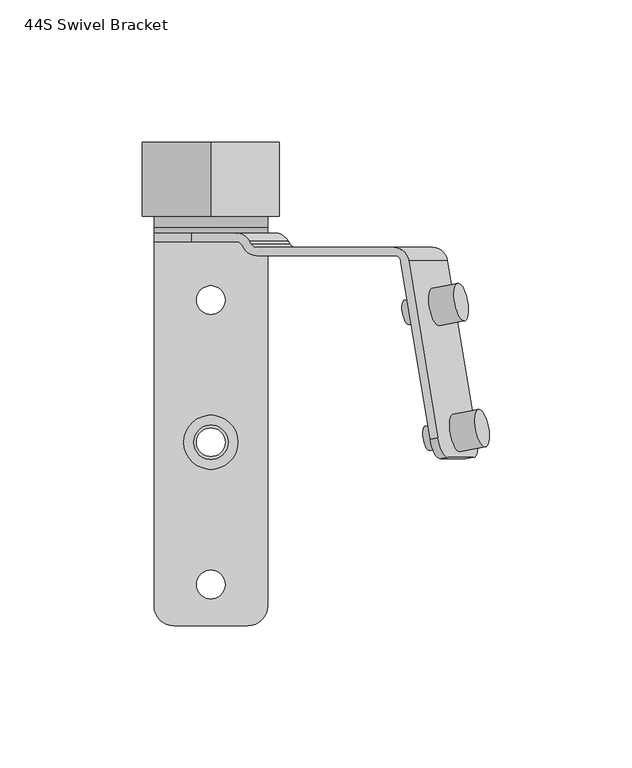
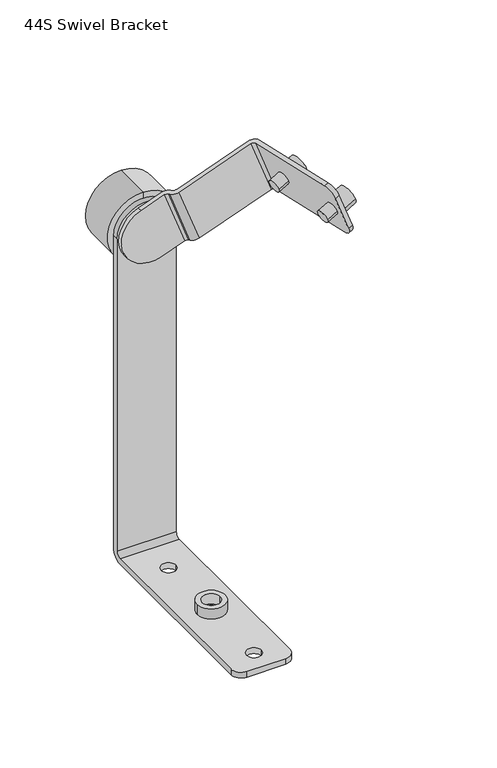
"""IFC4 building model written with IfcOpenShell, lengths in millimetres: proxy geometry, d&b xS-Series 44S Swivel Bracket : 44S Swivel Bracket."""

from ifc_helpers import new_model, si_unit, point, frame, frame_2d, origin, origin_2d, place, context, project, spatial, polyline, circle_curve, trimmed, segment, composite_curve, outline, extrude, source, transform, mapped, element, save
from ifc_brep_helpers import plane_surface, cylinder_surface, revolved_surface, advanced_brep


def proxy_44s_swivel_bracket_5362e897(model_context):
    return source(origin(), model_context, "Body", "SolidModel", [
        extrude(outline(composite_curve([segment(trimmed(circle_curve(frame_2d((0.0, 6.707269)), 6.7072689), [point((0.0, 13.4145379))], [point((0.0, 0.0))], False, "CARTESIAN"), True, "CONTINUOUS"), segment(trimmed(circle_curve(frame_2d((0.0, 6.707269)), 6.7072689), [point((0.0, 0.0))], [point((0.0, 13.4145379))], False, "CARTESIAN"), True, "CONTINUOUS")], self_intersect=False)), frame((80.1887594, 40.9628223, 28.9903002), z_axis=(0.9254165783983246, 0.17364817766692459, 0.33682408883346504), x_axis=(0.3420201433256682, 0.0, -0.9396926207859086)), (0.0, 0.0, 1.0), 9.6),
        extrude(outline(composite_curve([segment(trimmed(circle_curve(frame_2d((0.0, 6.7072689)), 6.7072689), [point((-1e-07, 13.4145378))], [point((0.0, 0.0))], False, "CARTESIAN"), True, "CONTINUOUS"), segment(trimmed(circle_curve(frame_2d((0.0, 6.7072689)), 6.7072689), [point((0.0, 0.0))], [point((-1e-07, 13.4145378))], False, "CARTESIAN"), True, "CONTINUOUS")], self_intersect=False)), frame((87.5316754, -3.3535265, 31.662903), z_axis=(0.9254165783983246, 0.17364817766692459, 0.33682408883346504), x_axis=(0.3420201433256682, 0.0, -0.9396926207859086)), (0.0, 0.0, 1.0), 9.6),
        advanced_brep(
        [(6.842462, 70.4953575, -18.7931029), (22.6658895, 70.4953575, -13.0338464), (8.9850837, 70.4953575, 24.5538585), (-6.8383437, 70.4953575, 18.7946019), (-6.8383437, 73.4953575, 18.7946019), (8.9301199, 73.4953575, 24.5338533), (22.6109256, 73.4953575, -13.0538516), (6.842462, 73.4953575, -18.7931029), (77.0431158, 1.0074858, 49.3249564), (79.8193656, 1.5284303, 50.3354286), (69.4901604, 63.8677873, 46.5759054), (64.3078275, 68.4953575, 44.6896905), (16.0407589, 68.4953575, 27.1219142), (14.0119763, 69.7366012, 26.3834978), (13.4777546, 70.7130373, 26.1890569), (11.0415217, 69.203566, 25.3023407), (11.548088, 68.2776777, 25.4867158), (16.0957227, 65.4953575, 27.1419194), (64.7365761, 65.4953575, 44.8457422), (66.7050032, 63.4006011, 45.5621911), (93.5001713, 1.5284303, 12.7477238), (90.7239216, 1.0074858, 11.7372515), (80.385809, 63.4006011, 7.9744863), (78.4173818, 65.4953575, 7.2580374), (29.7765285, 65.4953575, -10.4457854), (25.2288938, 68.2776777, -12.1009891), (24.7223275, 69.203566, -12.2853641), (27.1585603, 70.7130373, -11.3986479), (27.6927821, 69.7366012, -11.2042071), (29.7215646, 68.4953575, -10.4657906), (77.9886332, 68.4953575, 7.1019857), (83.1709661, 63.8677873, 8.9882006), (89.4720119, -5.8861685, 18.7308381), (80.5794882, -5.8861685, 43.1628462), (83.355738, -5.365224, 44.1733185), (92.2482617, -5.365224, 19.7413104)],
        [
            (0, 1),
            (1, 2),
            (2, 3),
            (3, 0, circle_curve(frame((0.0020592, 70.4953575, 0.0007495), z_axis=(0.0, -1.0, 0.0), x_axis=(0.9396926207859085, 0.0, 0.3420201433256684)), 20.0)),
            (4, 5),
            (5, 6),
            (6, 7),
            (7, 4, circle_curve(frame((0.0020592, 73.4953575, 0.0007495), z_axis=(0.0, 1.0, 0.0), x_axis=(0.9396926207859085, 0.0, 0.3420201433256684)), 20.0)),
            (3, 4),
            (7, 0),
            (8, 9),
            (9, 10),
            (10, 11, circle_curve(frame((64.3078275, 62.8953575, 44.6896905), z_axis=(-0.3420201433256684, 0.0, 0.9396926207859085), x_axis=(-0.9396926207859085, 0.0, -0.3420201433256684)), 5.6)),
            (11, 12),
            (12, 13, circle_curve(frame((16.0407589, 70.9936194, 27.1219142), z_axis=(0.3420201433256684, 0.0, -0.9396926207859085), x_axis=(-0.9396926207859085, 0.0, -0.3420201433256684)), 2.4982619)),
            (13, 14),
            (14, 5, circle_curve(frame((8.9301199, 67.8953575, 24.5338533), z_axis=(-0.3420201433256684, 0.0, 0.9396926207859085), x_axis=(-0.9396926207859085, 0.0, -0.3420201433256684)), 5.6)),
            (2, 15, circle_curve(frame((8.9290007, 67.8946641, 24.5334459), z_axis=(0.3420201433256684, 0.0, -0.9396926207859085), x_axis=(-0.9396926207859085, 0.0, -0.3420201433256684)), 2.6013781)),
            (15, 16),
            (16, 17, circle_curve(frame((16.0957227, 71.0953575, 27.1419194), z_axis=(-0.3420201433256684, 0.0, 0.9396926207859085), x_axis=(-0.9396926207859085, 0.0, -0.3420201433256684)), 5.6)),
            (17, 18),
            (18, 19, circle_curve(frame((64.7365761, 63.4006011, 44.8457422), z_axis=(0.3420201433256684, 0.0, -0.9396926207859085), x_axis=(-0.9396926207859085, 0.0, -0.3420201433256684)), 2.0947564)),
            (19, 8),
            (20, 21),
            (21, 22),
            (22, 23, circle_curve(frame((78.4173818, 63.4006011, 7.2580374), z_axis=(-0.3420201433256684, 0.0, 0.9396926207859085), x_axis=(-0.9396926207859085, 0.0, -0.3420201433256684)), 2.0947564)),
            (23, 24),
            (24, 25, circle_curve(frame((29.7765285, 71.0953575, -10.4457854), z_axis=(0.3420201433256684, 0.0, -0.9396926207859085), x_axis=(-0.9396926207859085, 0.0, -0.3420201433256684)), 5.6)),
            (25, 26),
            (26, 1, circle_curve(frame((22.6098065, 67.8946641, -13.0542589), z_axis=(-0.3420201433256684, 0.0, 0.9396926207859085), x_axis=(-0.9396926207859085, 0.0, -0.3420201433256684)), 2.6013781)),
            (6, 27, circle_curve(frame((22.6109256, 67.8953575, -13.0538516), z_axis=(0.3420201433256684, 0.0, -0.9396926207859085), x_axis=(-0.9396926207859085, 0.0, -0.3420201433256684)), 5.6)),
            (27, 28),
            (28, 29, circle_curve(frame((29.7215646, 70.9936194, -10.4657906), z_axis=(-0.3420201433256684, 0.0, 0.9396926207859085), x_axis=(-0.9396926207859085, 0.0, -0.3420201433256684)), 2.4982619)),
            (29, 30),
            (30, 31, circle_curve(frame((77.9886332, 62.8953575, 7.1019857), z_axis=(0.3420201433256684, 0.0, -0.9396926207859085), x_axis=(-0.9396926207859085, 0.0, -0.3420201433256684)), 5.6)),
            (31, 20),
            (19, 22),
            (21, 32, circle_curve(frame((88.3297806, 1.0074858, 18.3150999), z_axis=(-0.9254165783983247, -0.17364817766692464, -0.3368240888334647), x_axis=(0.16317591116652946, -0.9848077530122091, 0.059391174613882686)), 7.0)),
            (32, 33),
            (33, 8, circle_curve(frame((79.4372568, 1.0074858, 42.747108), z_axis=(-0.9254165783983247, -0.17364817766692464, -0.3368240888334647), x_axis=(0.16317591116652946, -0.9848077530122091, 0.059391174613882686)), 7.0)),
            (18, 23),
            (17, 24),
            (16, 25),
            (15, 26),
            (14, 27),
            (13, 28),
            (12, 29),
            (11, 30),
            (10, 31),
            (9, 34, circle_curve(frame((82.2135066, 1.5284303, 43.7575803), z_axis=(0.9254165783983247, 0.17364817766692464, 0.3368240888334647), x_axis=(0.16317591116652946, -0.9848077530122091, 0.059391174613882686)), 7.0)),
            (34, 35),
            (35, 20, circle_curve(frame((91.1060303, 1.5284303, 19.3255721), z_axis=(0.9254165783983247, 0.17364817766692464, 0.3368240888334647), x_axis=(0.16317591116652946, -0.9848077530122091, 0.059391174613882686)), 7.0)),
            (33, 34),
            (32, 35),
        ],
        [
            plane_surface(frame((18.7959116, 70.4953575, 6.8411523), z_axis=(0.0, -1.0, 0.0), x_axis=(0.3420201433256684, 0.0, -0.9396926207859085))),
            plane_surface(frame((18.7959116, 73.4953575, 6.8411523), z_axis=(0.0, 1.0, 0.0), x_axis=(-0.3420201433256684, 0.0, 0.9396926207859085))),
            cylinder_surface(frame((0.0020592, 73.4953575, 0.0007495), z_axis=(0.0, -1.0, 0.0), x_axis=(0.9396926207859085, 0.0, 0.3420201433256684)), 20.0),
            plane_surface(frame((66.7050032, 63.4006011, 45.5621911), z_axis=(-0.3420201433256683, 0.0, 0.9396926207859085), x_axis=(-0.16317591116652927, 0.9848077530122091, -0.0593911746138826))),
            plane_surface(frame((80.385809, 63.4006011, 7.9744863), z_axis=(0.3420201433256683, 0.0, -0.9396926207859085), x_axis=(0.16317591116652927, -0.9848077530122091, 0.0593911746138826))),
            plane_surface(frame((77.0431158, 1.0074858, 49.3249564), z_axis=(-0.9254165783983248, -0.1736481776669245, -0.33682408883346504), x_axis=(0.34202014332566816, 0.0, -0.9396926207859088))),
            revolved_surface(polyline([(76.44895467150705, 63.4006011, 6.54158850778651), (62.76814894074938, 63.4006011, 44.12929333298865)]), (78.4173818, 63.4006011, 7.2580374), (0.3420201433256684, 0.0, -0.9396926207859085)),
            plane_surface(frame((64.7365761, 65.4953575, 44.8457422), z_axis=(0.0, -1.0, 0.0), x_axis=(0.3420201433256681, 0.0, -0.9396926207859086))),
            cylinder_surface(frame((29.7765285, 71.0953575, -10.4457854), z_axis=(-0.3420201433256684, 0.0, 0.9396926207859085), x_axis=(-0.9396926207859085, 0.0, -0.3420201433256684)), 5.6),
            plane_surface(frame((11.548088, 68.2776777, 25.4867158), z_axis=(-0.8120776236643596, -0.5031571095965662, -0.29557208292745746), x_axis=(0.34202014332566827, 0.0, -0.9396926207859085))),
            revolved_surface(polyline([(20.16531070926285, 67.8946641, -13.943982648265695), (6.484504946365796, 67.8946641, 23.643722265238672)]), (22.6098065, 67.8946641, -13.0542589), (0.3420201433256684, 0.0, -0.9396926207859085)),
            cylinder_surface(frame((22.6109256, 67.8953575, -13.0538516), z_axis=(-0.3420201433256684, 0.0, 0.9396926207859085), x_axis=(-0.9396926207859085, 0.0, -0.3420201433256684)), 5.6),
            plane_surface(frame((13.4777546, 70.7130373, 26.1890569), z_axis=(0.8120776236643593, 0.5031571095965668, 0.29557208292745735), x_axis=(0.34202014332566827, 0.0, -0.9396926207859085))),
            revolved_surface(polyline([(27.37396634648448, 70.9936194, -11.320246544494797), (13.693160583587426, 70.9936194, 26.267458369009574)]), (29.7215646, 70.9936194, -10.4657906), (0.3420201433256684, 0.0, -0.9396926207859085)),
            plane_surface(frame((16.0407589, 68.4953575, 27.1219142), z_axis=(0.0, 1.0, 0.0), x_axis=(0.34202014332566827, 0.0, -0.9396926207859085))),
            cylinder_surface(frame((77.9886332, 62.8953575, 7.1019857), z_axis=(-0.3420201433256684, 0.0, 0.9396926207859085), x_axis=(-0.9396926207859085, 0.0, -0.3420201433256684)), 5.6),
            plane_surface(frame((69.4901604, 63.8677873, 46.5759054), z_axis=(0.9254165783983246, 0.17364817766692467, 0.33682408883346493), x_axis=(0.3420201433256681, 0.0, -0.9396926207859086))),
            cylinder_surface(frame((82.2135066, 1.5284303, 43.7575803), z_axis=(-0.9254165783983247, -0.17364817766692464, -0.3368240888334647), x_axis=(0.16317591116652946, -0.9848077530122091, 0.059391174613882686)), 7.0),
            plane_surface(frame((80.5794882, -5.8861685, 43.1628462), z_axis=(0.16317591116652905, -0.9848077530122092, 0.05939117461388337), x_axis=(0.9254165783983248, 0.17364817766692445, 0.3368240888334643))),
            cylinder_surface(frame((91.1060303, 1.5284303, 19.3255721), z_axis=(-0.9254165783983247, -0.17364817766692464, -0.3368240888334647), x_axis=(0.16317591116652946, -0.9848077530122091, 0.059391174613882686)), 7.0),
        ],
        [
            (0, [[1, 2, 3, 4]]),
            (1, [[5, 6, 7, 8]]),
            (2, [[9, -8, 10, -4]]),
            (3, [[11, 12, 13, 14, 15, 16, 17, -5, -9, -3, 18, 19, 20, 21, 22, 23]]),
            (4, [[24, 25, 26, 27, 28, 29, 30, -1, -10, -7, 31, 32, 33, 34, 35, 36]]),
            (5, [[37, -25, 38, 39, 40, -23]]),
            (6, [[41, -26, -37, -22]]),
            (7, [[42, -27, -41, -21]]),
            (8, [[43, -28, -42, -20]]),
            (9, [[44, -29, -43, -19]]),
            (10, [[-2, -30, -44, -18]]),
            (11, [[45, -31, -6, -17]]),
            (12, [[46, -32, -45, -16]]),
            (13, [[47, -33, -46, -15]]),
            (14, [[48, -34, -47, -14]]),
            (15, [[49, -35, -48, -13]]),
            (16, [[50, 51, 52, -36, -49, -12]]),
            (17, [[53, -50, -11, -40]]),
            (18, [[54, -51, -53, -39]]),
            (19, [[-24, -52, -54, -38]]),
        ],
    ),
        advanced_brep(
        [(20.0021913, 79.4953575, 0.0), (20.0021913, 75.4953575, 0.0), (20.0021913, 75.4953575, -222.6), (20.0021913, 72.0953575, -226.0), (20.0021913, -57.5046425, -226.0), (20.0021913, -57.5046425, -230.0), (20.0021913, 72.0953575, -230.0), (20.0021913, 79.4953575, -222.6), (-19.9978087, 75.4953575, 0.0), (-19.9978087, 79.4953575, 0.0), (-19.9978087, 79.4953575, -222.6), (-19.9978087, 72.0953575, -230.0), (-19.9978087, -57.53477, -230.0), (-19.9978087, -57.53477, -226.0), (-19.9978087, 72.0953575, -226.0), (-19.9978087, 75.4953575, -222.6), (13.0021913, -64.5046425, -226.0), (-13.0279363, -64.5046425, -226.0), (-5.0, 0.0, -226.0), (5.0, 0.0, -226.0), (-5.0, -50.0, -226.0), (5.0, -50.0, -226.0), (-5.0, 50.0, -226.0), (5.0, 50.0, -226.0), (13.0021913, -64.5046425, -230.0), (-13.0279363, -64.5046425, -230.0), (-5.0, 0.0, -230.0), (5.0, 0.0, -230.0), (-5.0, -50.0, -230.0), (5.0, -50.0, -230.0), (-5.0, 50.0, -230.0), (5.0, 50.0, -230.0)],
        [
            (0, 1),
            (1, 2),
            (2, 3, circle_curve(frame((20.0021913, 72.0953575, -222.6), z_axis=(-1.0, 0.0, 0.0), x_axis=(0.0, -1.0, 0.0)), 3.4)),
            (3, 4),
            (4, 5),
            (5, 6),
            (6, 7, circle_curve(frame((20.0021913, 72.0953575, -222.6), z_axis=(1.0, 0.0, 0.0), x_axis=(0.0, -1.0, 0.0)), 7.4)),
            (7, 0),
            (8, 9),
            (9, 10),
            (10, 11, circle_curve(frame((-19.9978087, 72.0953575, -222.6), z_axis=(-1.0, 0.0, 0.0), x_axis=(0.0, -1.0, 0.0)), 7.4)),
            (11, 12),
            (12, 13),
            (13, 14),
            (14, 15, circle_curve(frame((-19.9978087, 72.0953575, -222.6), z_axis=(1.0, 0.0, 0.0), x_axis=(0.0, -1.0, 0.0)), 3.4)),
            (15, 8),
            (7, 10),
            (9, 0, circle_curve(frame((0.0021913, 79.4953575, 0.0), z_axis=(0.0, 1.0, 0.0), x_axis=(1.0, 0.0, 0.0)), 20.0)),
            (6, 11),
            (2, 15),
            (14, 3),
            (1, 8, circle_curve(frame((0.0021913, 75.4953575, 0.0), z_axis=(0.0, -1.0, 0.0), x_axis=(1.0, 0.0, 0.0)), 20.0)),
            (16, 4, circle_curve(frame((13.0021913, -57.5046425, -226.0), z_axis=(0.0, 0.0, 1.0), x_axis=(1.0, 0.0, 0.0)), 7.0)),
            (13, 17, circle_curve(frame((-13.0279363, -57.53477, -226.0), z_axis=(0.0, 0.0, 1.0), x_axis=(1.0, 0.0, 0.0)), 6.9698724)),
            (17, 16),
            (18, 19, circle_curve(frame((0.0, 0.0, -226.0), z_axis=(0.0, 0.0, -1.0), x_axis=(1.0, 0.0, 0.0)), 5.0)),
            (19, 18, circle_curve(frame((0.0, 0.0, -226.0), z_axis=(0.0, 0.0, -1.0), x_axis=(1.0, 0.0, 0.0)), 5.0)),
            (20, 21, circle_curve(frame((0.0, -50.0, -226.0), z_axis=(0.0, 0.0, -1.0), x_axis=(1.0, 0.0, 0.0)), 5.0)),
            (21, 20, circle_curve(frame((0.0, -50.0, -226.0), z_axis=(0.0, 0.0, -1.0), x_axis=(1.0, 0.0, 0.0)), 5.0)),
            (22, 23, circle_curve(frame((0.0, 50.0, -226.0), z_axis=(0.0, 0.0, -1.0), x_axis=(1.0, 0.0, 0.0)), 5.0)),
            (23, 22, circle_curve(frame((0.0, 50.0, -226.0), z_axis=(0.0, 0.0, -1.0), x_axis=(1.0, 0.0, 0.0)), 5.0)),
            (24, 25),
            (25, 12, circle_curve(frame((-13.0279363, -57.53477, -230.0), z_axis=(0.0, 0.0, -1.0), x_axis=(1.0, 0.0, 0.0)), 6.9698724)),
            (5, 24, circle_curve(frame((13.0021913, -57.5046425, -230.0), z_axis=(0.0, 0.0, -1.0), x_axis=(1.0, 0.0, 0.0)), 7.0)),
            (26, 27, circle_curve(frame((0.0, 0.0, -230.0), z_axis=(0.0, 0.0, 1.0), x_axis=(1.0, 0.0, 0.0)), 5.0)),
            (27, 26, circle_curve(frame((0.0, 0.0, -230.0), z_axis=(0.0, 0.0, 1.0), x_axis=(1.0, 0.0, 0.0)), 5.0)),
            (28, 29, circle_curve(frame((0.0, -50.0, -230.0), z_axis=(0.0, 0.0, 1.0), x_axis=(1.0, 0.0, 0.0)), 5.0)),
            (29, 28, circle_curve(frame((0.0, -50.0, -230.0), z_axis=(0.0, 0.0, 1.0), x_axis=(1.0, 0.0, 0.0)), 5.0)),
            (30, 31, circle_curve(frame((0.0, 50.0, -230.0), z_axis=(0.0, 0.0, 1.0), x_axis=(1.0, 0.0, 0.0)), 5.0)),
            (31, 30, circle_curve(frame((0.0, 50.0, -230.0), z_axis=(0.0, 0.0, 1.0), x_axis=(1.0, 0.0, 0.0)), 5.0)),
            (17, 25),
            (24, 16),
            (19, 27),
            (26, 18),
            (21, 29),
            (28, 20),
            (23, 31),
            (30, 22),
        ],
        [
            plane_surface(frame((20.0021913, 79.4953575, -222.6), z_axis=(1.0, 0.0, 0.0), x_axis=(0.0, 0.0, -1.0))),
            plane_surface(frame((-19.9978087, 79.4953575, -222.6), z_axis=(-1.0, 0.0, 0.0), x_axis=(0.0, 0.0, 1.0))),
            plane_surface(frame((20.0021913, 79.4953575, 0.0), z_axis=(0.0, 1.0, 0.0), x_axis=(-1.0, 0.0, 0.0))),
            cylinder_surface(frame((-19.9978087, 72.0953575, -222.6), z_axis=(1.0, 0.0, 0.0), x_axis=(0.0, -1.0, 0.0)), 7.4),
            revolved_surface(polyline([(-19.9978087, 68.6953575, -222.6), (20.0021913, 68.6953575, -222.6)]), (-19.9978087, 72.0953575, -222.6), (-1.0, 0.0, 0.0)),
            plane_surface(frame((20.0021913, 75.4953575, -222.6), z_axis=(0.0, -1.0, 0.0), x_axis=(-1.0, 0.0, 0.0))),
            plane_surface(frame((-19.9978087, -64.5046425, -226.0), z_axis=(0.0, 0.0, 1.0), x_axis=(-1.0, 0.0, 0.0))),
            plane_surface(frame((-19.9978087, -64.5046425, -230.0), z_axis=(0.0, 0.0, -1.0), x_axis=(1.0, 0.0, 0.0))),
            plane_surface(frame((13.0021913, -64.5046425, -226.0), z_axis=(0.0, -1.0, 0.0), x_axis=(0.0, 0.0, -1.0))),
            cylinder_surface(frame((-13.0279363, -57.53477, -230.0), z_axis=(0.0, 0.0, 1.0), x_axis=(1.0, 0.0, 0.0)), 6.9698724),
            cylinder_surface(frame((13.0021913, -57.5046425, -230.0), z_axis=(0.0, 0.0, 1.0), x_axis=(1.0, 0.0, 0.0)), 7.0),
            revolved_surface(polyline([(5.0, 0.0, -230.0), (5.0, 0.0, -226.0)]), (0.0, 0.0, 0.0), (0.0, 0.0, -1.0)),
            revolved_surface(polyline([(5.0, -50.0, -230.0), (5.0, -50.0, -226.0)]), (0.0, -50.0, 0.0), (0.0, 0.0, -1.0)),
            revolved_surface(polyline([(5.0, 50.0, -230.0), (5.0, 50.0, -226.0)]), (0.0, 50.0, 0.0), (0.0, 0.0, -1.0)),
            cylinder_surface(frame((0.0021913, 75.4953575, 0.0), z_axis=(0.0, 1.0, 0.0), x_axis=(1.0, 0.0, 0.0)), 20.0),
        ],
        [
            (0, [[1, 2, 3, 4, 5, 6, 7, 8]]),
            (1, [[9, 10, 11, 12, 13, 14, 15, 16]]),
            (2, [[17, -10, 18, -8]]),
            (3, [[19, -11, -17, -7]]),
            (4, [[20, -15, 21, -3]]),
            (5, [[22, -16, -20, -2]]),
            (6, [[23, -4, -21, -14, 24, 25], [26, 27], [28, 29], [30, 31]]),
            (7, [[32, 33, -12, -19, -6, 34], [35, 36], [37, 38], [39, 40]]),
            (8, [[41, -32, 42, -25]]),
            (9, [[-13, -33, -41, -24]]),
            (10, [[-42, -34, -5, -23]]),
            (11, [[43, -35, 44, -27]]),
            (11, [[-44, -36, -43, -26]]),
            (12, [[45, -37, 46, -29]]),
            (12, [[-46, -38, -45, -28]]),
            (13, [[47, -39, 48, -31]]),
            (13, [[-48, -40, -47, -30]]),
            (14, [[-9, -22, -1, -18]]),
        ],
    ),
        extrude(outline(composite_curve([segment(trimmed(circle_curve(origin_2d(), 9.4940159), [point((-9.4940159, 0.0))], [point((9.4940159, 0.0))], False, "CARTESIAN"), True, "CONTINUOUS"), segment(trimmed(circle_curve(origin_2d(), 9.4940159), [point((9.4940159, 0.0))], [point((-9.4940159, 0.0))], False, "CARTESIAN"), True, "CONTINUOUS")], self_intersect=False), holes=[composite_curve([segment(trimmed(circle_curve(origin_2d(), 6.0264841), [point((-6.0264841, 0.0))], [point((6.0264841, 0.0))], True, "CARTESIAN"), True, "CONTINUOUS"), segment(trimmed(circle_curve(origin_2d(), 6.0264841), [point((6.0264841, 0.0))], [point((-6.0264841, 0.0))], True, "CARTESIAN"), True, "CONTINUOUS")], self_intersect=False)]), frame((0.0, 0.0, -226.0), z_axis=(0.0, 0.0, 1.0), x_axis=(1.0, 0.0, 0.0)), (0.0, 0.0, 1.0), 7.6),
        extrude(outline(composite_curve([segment(trimmed(circle_curve(frame_2d((0.0, 4.375)), 4.375), [point((0.0, 8.75))], [point((0.0, 0.0))], False, "CARTESIAN"), True, "CONTINUOUS"), segment(trimmed(circle_curve(frame_2d((0.0, 4.375)), 4.375), [point((0.0, 0.0))], [point((0.0, 8.75))], False, "CARTESIAN"), True, "CONTINUOUS")], self_intersect=False)), frame((69.5360652, 41.3321641, 25.1130366), z_axis=(0.9254165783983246, 0.17364817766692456, 0.33682408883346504), x_axis=(0.3420201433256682, 0.0, -0.9396926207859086)), (0.0, 0.0, 1.0), 8.1),
        extrude(outline(composite_curve([segment(trimmed(circle_curve(frame_2d((0.0, 4.375)), 4.375), [point((0.0, 8.75))], [point((0.0, 0.0))], False, "CARTESIAN"), True, "CONTINUOUS"), segment(trimmed(circle_curve(frame_2d((0.0, 4.375)), 4.375), [point((0.0, 0.0))], [point((0.0, 8.75))], False, "CARTESIAN"), True, "CONTINUOUS")], self_intersect=False)), frame((69.5360652, 41.3321641, 25.1130366), z_axis=(0.9254165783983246, 0.17364817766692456, 0.33682408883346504), x_axis=(0.3420201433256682, 0.0, -0.9396926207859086)), (0.0, 0.0, 1.0), 8.1),
        extrude(outline(composite_curve([segment(trimmed(circle_curve(frame_2d((0.0, 4.375)), 4.375), [point((-1e-07, 8.75))], [point((0.0, 0.0))], False, "CARTESIAN"), True, "CONTINUOUS"), segment(trimmed(circle_curve(frame_2d((0.0, 4.375)), 4.375), [point((0.0, 0.0))], [point((-1e-07, 8.75))], False, "CARTESIAN"), True, "CONTINUOUS")], self_intersect=False)), frame((76.8789812, -2.9841848, 27.7856394), z_axis=(0.9254165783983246, 0.17364817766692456, 0.33682408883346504), x_axis=(0.3420201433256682, 0.0, -0.9396926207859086)), (0.0, 0.0, 1.0), 8.1),
        advanced_brep(
        [(0.0, 79.4953575, -24.1351733), (0.0, 79.4953575, 0.0), (0.0, 79.4953575, 24.1351733), (0.0, 105.4217862, -24.1351733), (0.0, 105.4217862, 24.1351733), (0.0, 105.4217862, 0.0)],
        [
            (0, 1),
            (1, 2),
            (2, 0, circle_curve(frame((0.0, 79.4953575, 0.0), z_axis=(0.0, -1.0, 0.0), x_axis=(0.0, 0.0, 1.0)), 24.1351733)),
            (0, 2, circle_curve(frame((0.0, 79.4953575, 0.0), z_axis=(0.0, -1.0, 0.0), x_axis=(0.0, 0.0, 1.0)), 24.1351733)),
            (3, 0),
            (2, 4),
            (4, 3, circle_curve(frame((0.0, 105.4217862, 0.0), z_axis=(0.0, -1.0, 0.0), x_axis=(0.0, 0.0, 1.0)), 24.1351733)),
            (3, 4, circle_curve(frame((0.0, 105.4217862, 0.0), z_axis=(0.0, -1.0, 0.0), x_axis=(0.0, 0.0, 1.0)), 24.1351733)),
            (5, 3),
            (4, 5),
        ],
        [
            plane_surface(frame((0.0, 79.4953575, 0.0), z_axis=(0.0, -1.0, 0.0), x_axis=(0.0, 0.0, 1.0))),
            cylinder_surface(frame((0.0, 115.4217862, 0.0), z_axis=(0.0, 1.0, 0.0), x_axis=(0.0, 0.0, 1.0)), 24.1351733),
            plane_surface(frame((0.0, 105.4217862, 0.0), z_axis=(0.0, 1.0, 0.0), x_axis=(0.0, 0.0, 1.0))),
        ],
        [
            (0, [[1, 2, 3]]),
            (0, [[-2, -1, 4]]),
            (1, [[5, -3, 6, 7]]),
            (1, [[-6, -4, -5, 8]]),
            (2, [[9, -7, 10]]),
            (2, [[-10, -8, -9]]),
        ],
    ),
    ])


if __name__ == "__main__":
    model = new_model("IFC4")
    model_context = context("Model", 3, world=origin())
    ifc_project = project(units=[si_unit("LENGTHUNIT", "METRE", prefix="MILLI")], contexts=[model_context])
    site = spatial("IfcSite", under=ifc_project)
    building = spatial("IfcBuilding", under=site)
    placement = place(None, origin())
    proxy_44s_swivel_bracket_shape = proxy_44s_swivel_bracket_5362e897(model_context)
    element("IfcBuildingElementProxy", 1, Name="d&b xS-Series 44S Swivel Bracket : 44S Swivel Bracket", ObjectType="d&b xS-Series 44S Swivel Bracket : 44S Swivel Bracket", at=placement, inside=building, context=model_context, shape_type="MappedRepresentation", body=[
        mapped(proxy_44s_swivel_bracket_shape, transform((0.0, 0.0, 0.0), x_axis=(1.0, 0.0, 0.0), y_axis=(0.0, 1.0, 0.0), z_axis=(0.0, 0.0, 1.0))),
    ])
    save(model, "model.ifc")
